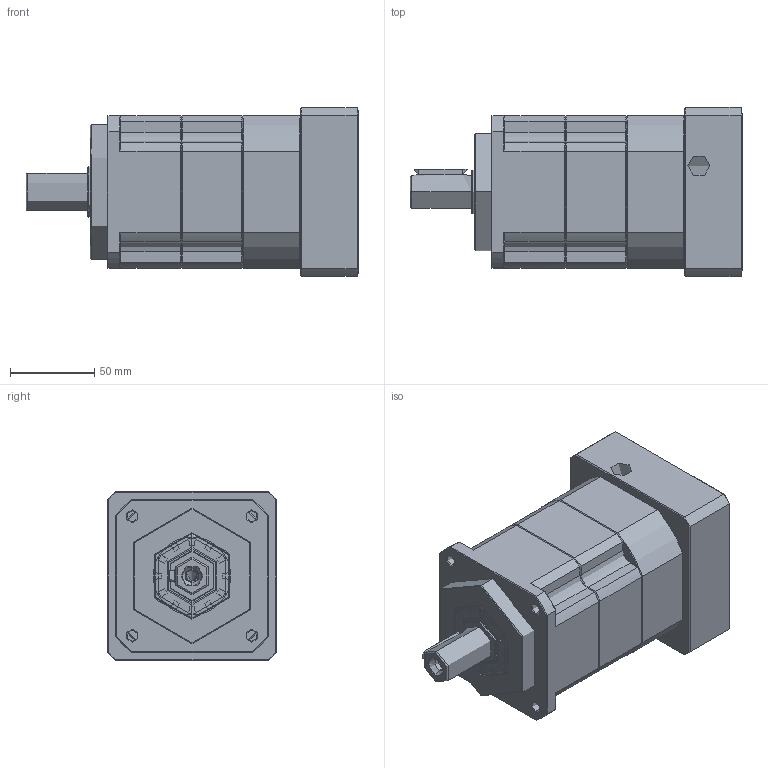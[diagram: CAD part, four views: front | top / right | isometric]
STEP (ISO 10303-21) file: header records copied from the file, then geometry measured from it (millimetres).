
FILE_DESCRIPTION (( 'STEP AP214' ), '1' );
FILE_NAME ('ZPB090-D22-L2-P1-22-95-115-M8.step', '2024-06-07T18:21:32', ( 'Windows 蚚誧' ), ( 'Organization' ), 'SwSTEP 2.0', 'SolidWorks 2016', '' );
FILE_SCHEMA (( 'AUTOMOTIVE_DESIGN' ));
Length unit declared in the file: millimetre
Products named in the file (1): ZPB090-D22-L2-P1-22-95-115-M8
Bounding box: 196.5 x 100 x 100 mm (x, y, z)
Topology: 0 solids, 37 shells, 1886 faces, 4980 edges, 3159 vertices
Faces by surface type: plane 969, bspline 388, cone 291, cylinder 236, torus 2
Full cylindrical faces by diameter (mm): 6.72 x1
Entity records: 96347 total; most frequent: CARTESIAN_POINT 47988, ORIENTED_EDGE 9911, DIRECTION 7695, EDGE_CURVE 4976, VECTOR 3273, LINE 3273, VERTEX_POINT 3157, AXIS2_PLACEMENT_3D 2211
